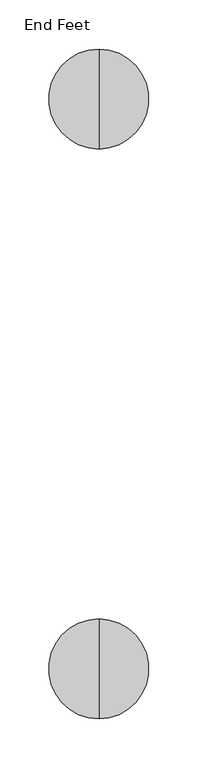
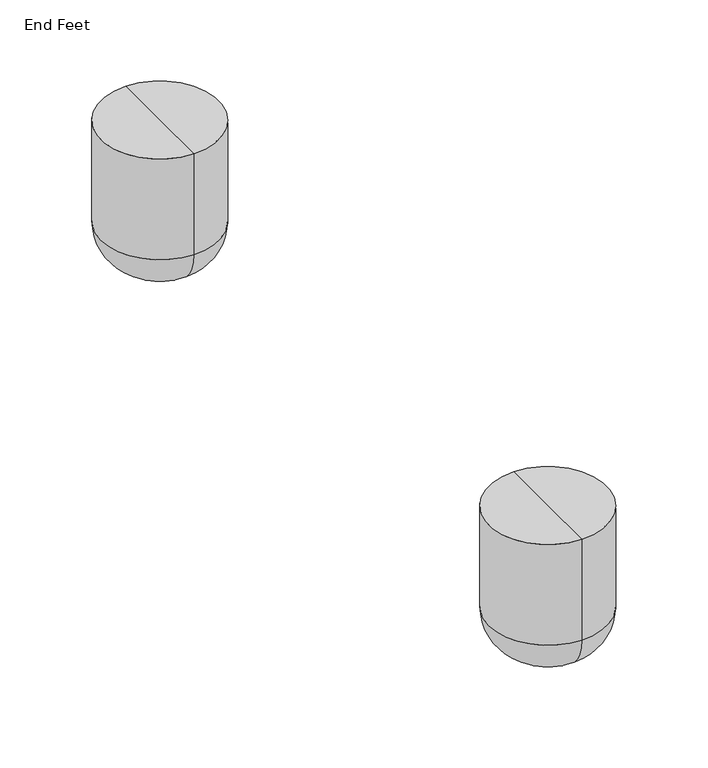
"""IFC4 building model written with IfcOpenShell, lengths in millimetres: furniture geometry, Coalesse_AM_Ensemble_Seat_EndOption : End Feet."""

import ifcopenshell
import ifcopenshell.guid

model = None  # the IFC model being written
_history = None  # IfcOwnerHistory: only IFC2X3 demands one
_inside = {}  # id of a spatial element -> (the spatial element, [elements in it])
_under = {}  # id of a project, library or spatial element -> (it, [spatial elements below it])
_declared = {}  # id of a project -> (the project, [libraries it declares])
_typed = {}  # id of a type object -> (the type object, [elements of that type])
_made_of = {}  # id of a material, layer set ... -> (it, [elements and type objects made of it])


def new_model(schema):
    """Start an empty IFC model of exactly this schema.

    Asked for "IFC4X3", IfcOpenShell would pick the latest addendum, in which some entities
    have other attributes; the version numbers below select the first issue.
    IFC2X3 requires an IfcOwnerHistory on every rooted entity: one is made here for all.
    """
    global model, _history
    if schema == "IFC4X3":
        model = ifcopenshell.file(schema_version=(4, 3, 0, 0))
    else:
        model = ifcopenshell.file(schema=schema)
    _inside.clear()
    _under.clear()
    _declared.clear()
    _typed.clear()
    _made_of.clear()
    _history = None
    if model.schema == "IFC2X3":
        org = make("IfcOrganization", Name="unknown")
        user = make(
            "IfcPersonAndOrganization",
            ThePerson=make("IfcPerson", FamilyName="unknown"),
            TheOrganization=org,
        )
        app = make(
            "IfcApplication",
            ApplicationDeveloper=org,
            Version="unknown",
            ApplicationFullName="unknown",
            ApplicationIdentifier="unknown",
        )
        _history = make(
            "IfcOwnerHistory",
            OwningUser=user,
            OwningApplication=app,
            ChangeAction="ADDED",
            CreationDate=0,
        )
    return model


def make(cls, **values):
    """One entity of the class cls with the attributes given. An attribute that is None is left unset."""
    return model.create_entity(
        cls, **{name: value for name, value in values.items() if value is not None}
    )


def rooted(cls, **values):
    """An entity with a GlobalId (a new one), such as an element, a storey or a relation."""
    return make(cls, GlobalId=ifcopenshell.guid.new(), OwnerHistory=_history, **values)


def si_unit(unit_type, name, prefix=None):
    """IfcSIUnit, for example si_unit("LENGTHUNIT", "METRE", prefix="MILLI")."""
    return make("IfcSIUnit", UnitType=unit_type, Prefix=prefix, Name=name)


def assignment(units):
    """IfcUnitAssignment: the units of a project."""
    return None if units is None else make("IfcUnitAssignment", Units=units)


def point(xyz):
    """IfcCartesianPoint."""
    return None if xyz is None else make("IfcCartesianPoint", Coordinates=xyz)


def direction(xyz):
    """IfcDirection."""
    return None if xyz is None else make("IfcDirection", DirectionRatios=xyz)


def frame(location, z_axis=None, x_axis=None):
    """IfcAxis2Placement3D, a coordinate frame: its origin and axes. An axis left out is left unset."""
    return make(
        "IfcAxis2Placement3D",
        Location=point(location),
        Axis=direction(z_axis),
        RefDirection=direction(x_axis),
    )


def origin():
    """The frame at (0, 0, 0) with its axes left unset."""
    return frame((0.0, 0.0, 0.0))


def place(relative_to, where):
    """IfcLocalPlacement: puts the frame where relative to a parent placement (None: the world)."""
    return make(
        "IfcLocalPlacement", PlacementRelTo=relative_to, RelativePlacement=where
    )


def context(
    kind, dimensions, precision=None, world=None, true_north=None, identifier=None
):
    """IfcGeometricRepresentationContext, for example the 3D "Model" context."""
    return make(
        "IfcGeometricRepresentationContext",
        ContextIdentifier=identifier,
        ContextType=kind,
        CoordinateSpaceDimension=dimensions,
        Precision=precision,
        WorldCoordinateSystem=world,
        TrueNorth=true_north,
    )


def project(units=None, contexts=None):
    """IfcProject with its units and contexts."""
    return rooted(
        "IfcProject",
        Name="project",
        RepresentationContexts=contexts,
        UnitsInContext=assignment(units),
    )


def spatial(cls, under=None, at=None, **own):
    """A site, building, storey or space (cls), placed at a placement, below another one or the project."""
    s = rooted(cls, ObjectPlacement=at, **own)
    if under is not None:
        _under.setdefault(under.id(), (under, []))[1].append(s)
    return s


def circle_curve(where, radius):
    """IfcCircle in the frame where."""
    return make("IfcCircle", Position=where, Radius=radius)


def ellipse_curve(where, semi_axis1, semi_axis2):
    """IfcEllipse in the frame where."""
    return make(
        "IfcEllipse", Position=where, SemiAxis1=semi_axis1, SemiAxis2=semi_axis2
    )


def trimmed(basis, trim1, trim2, sense, master):
    """IfcTrimmedCurve: the piece of a basis curve between two trims."""
    return make(
        "IfcTrimmedCurve",
        BasisCurve=basis,
        Trim1=trim1,
        Trim2=trim2,
        SenseAgreement=sense,
        MasterRepresentation=master,
    )


def shape(context_of_items, identifier, shape_type, items):
    """IfcShapeRepresentation: the items that make up one representation, for example the "Body"."""
    return make(
        "IfcShapeRepresentation",
        ContextOfItems=context_of_items,
        RepresentationIdentifier=identifier,
        RepresentationType=shape_type,
        Items=items,
    )


def source(mapping_origin, context_of_items, identifier, shape_type, items):
    """IfcRepresentationMap: a shape defined once, which mapped items show again and again."""
    return make(
        "IfcRepresentationMap",
        MappingOrigin=mapping_origin,
        MappedRepresentation=shape(context_of_items, identifier, shape_type, items),
    )


def transform(
    local_origin,
    x_axis=None,
    y_axis=None,
    z_axis=None,
    scale=None,
    scale2=None,
    scale3=None,
    uniform=True,
):
    """IfcCartesianTransformationOperator3D, or its non-uniform kind. x_axis, y_axis, z_axis: its Axis1, 2, 3."""
    if uniform:
        return make(
            "IfcCartesianTransformationOperator3D",
            Axis1=direction(x_axis),
            Axis2=direction(y_axis),
            LocalOrigin=point(local_origin),
            Scale=scale,
            Axis3=direction(z_axis),
        )
    return make(
        "IfcCartesianTransformationOperator3DnonUniform",
        Axis1=direction(x_axis),
        Axis2=direction(y_axis),
        LocalOrigin=point(local_origin),
        Scale=scale,
        Axis3=direction(z_axis),
        Scale2=scale2,
        Scale3=scale3,
    )


def mapped(mapping_source, mapping_target):
    """IfcMappedItem: shows the shape of a source again, moved by a transform."""
    return make(
        "IfcMappedItem", MappingSource=mapping_source, MappingTarget=mapping_target
    )


def made_of(thing, what):
    """Note that an element or type object is made of a material, layer set ...; save() writes the relation."""
    if what is not None:
        _made_of.setdefault(what.id(), (what, []))[1].append(thing)
    return thing


def element(
    cls,
    number,
    at=None,
    inside=None,
    cuts=None,
    type_object=None,
    material=None,
    context=None,
    identifier="Body",
    shape_type=None,
    held_by="IfcProductDefinitionShape",
    body=None,
    shapes=None,
    **own,
):
    """One element of the class cls, such as IfcWall. Its Tag is "e" and its number.

    at: its placement. inside: the storey or other place that contains it. cuts: it is an
    opening in that element (IfcRelVoidsElement). A single representation is given by context,
    identifier, shape_type and body (its items); several are given by shapes. held_by: the class
    of the entity that holds the representations. save() writes the other relations.
    """
    e = rooted(cls, Tag="e%d" % number, ObjectPlacement=at, **own)
    if body is not None:
        shapes = [shape(context, identifier, shape_type, body)]
    if shapes is not None:
        e.Representation = make(held_by, Representations=shapes)
    if inside is not None:
        _inside.setdefault(inside.id(), (inside, []))[1].append(e)
    if cuts is not None:
        rooted(
            "IfcRelVoidsElement", RelatingBuildingElement=cuts, RelatedOpeningElement=e
        )
    if type_object is not None:
        _typed.setdefault(type_object.id(), (type_object, []))[1].append(e)
    return made_of(e, material)


def aggregate(whole, parts):
    """IfcRelAggregates: a whole, such as a stair, and the parts it consists of."""
    return rooted("IfcRelAggregates", RelatingObject=whole, RelatedObjects=parts)


def save(model, path):
    """Write the relations noted so far, then the file.

    IfcRelAggregates (storeys below a building ...), IfcRelContainedInSpatialStructure (elements
    in a storey), IfcRelDefinesByType, IfcRelAssociatesMaterial and IfcRelDeclares: one each for
    every whole, place, type object, material and project.
    """
    for whole, parts in _under.values():
        aggregate(whole, parts)
    for where, things in _inside.values():
        rooted(
            "IfcRelContainedInSpatialStructure",
            RelatedElements=things,
            RelatingStructure=where,
        )
    for kind, things in _typed.values():
        rooted("IfcRelDefinesByType", RelatedObjects=things, RelatingType=kind)
    for what, things in _made_of.values():
        rooted("IfcRelAssociatesMaterial", RelatedObjects=things, RelatingMaterial=what)
    for by, libraries in _declared.values():
        rooted("IfcRelDeclares", RelatingContext=by, RelatedDefinitions=libraries)
    model.write(path)


def plane_surface(at):
    """IfcPlane: the flat surface through the origin of the frame at, square to its z axis."""
    return make("IfcPlane", Position=at)


def cylinder_surface(at, radius):
    """IfcCylindricalSurface: all points at the distance radius from the z axis of the frame at."""
    return make("IfcCylindricalSurface", Position=at, Radius=radius)


def revolved_surface(curve, axis_point, axis_direction):
    """IfcSurfaceOfRevolution: the curve turned about the line through axis_point along axis_direction."""
    return make(
        "IfcSurfaceOfRevolution",
        SweptCurve=make("IfcArbitraryOpenProfileDef", ProfileType="CURVE", Curve=curve),
        AxisPosition=make("IfcAxis1Placement", Location=point(axis_point), Axis=direction(axis_direction)),
    )


def advanced_brep(points, edges, surfaces, faces):
    """IfcAdvancedBrep: a solid bounded by faces that lie on surfaces and meet in shared edges.

    An edge is (start, end): straight between two places in points (the first is 0);
    or (start, end, curve); or (start, end, curve, False) where it runs against its curve.
    A face is (place in surfaces, loops), or (place, loops, False) where it looks against
    its surface's normal. A loop lists edges by number (the first is 1), with a minus sign
    where the edge is run from its end to its start. The first loop is the outer one.
    """
    corners = [point(p) for p in points]
    vertices = [make("IfcVertexPoint", VertexGeometry=c) for c in corners]
    made = []
    for start, end, *more in edges:
        made.append(
            make(
                "IfcEdgeCurve",
                EdgeStart=vertices[start],
                EdgeEnd=vertices[end],
                EdgeGeometry=more[0] if more else make("IfcPolyline", Points=[corners[start], corners[end]]),
                SameSense=more[1] if len(more) > 1 else True,
            )
        )
    hull = []
    for where, loops, *sense in faces:
        bounds = []
        for j, loop in enumerate(loops):
            ring = [make("IfcOrientedEdge", EdgeElement=made[abs(k) - 1], Orientation=k > 0) for k in loop]
            bounds.append(
                make(
                    "IfcFaceOuterBound" if j == 0 else "IfcFaceBound",
                    Bound=make("IfcEdgeLoop", EdgeList=ring),
                    Orientation=True,
                )
            )
        hull.append(make("IfcAdvancedFace", Bounds=bounds, FaceSurface=surfaces[where], SameSense=sense[0] if sense else True))
    return make("IfcAdvancedBrep", Outer=make("IfcClosedShell", CfsFaces=hull))


def end_feet_c620475a(model_context):
    return source(origin(), model_context, "Body", "AdvancedBrep", [
        advanced_brep(
        [(135.289512, 747.4877706, 130.0907271), (135.289512, 645.5490367, 130.0907271), (135.289512, 696.5184037, 130.0907271), (135.289512, 747.4877706, 38.1), (135.289512, 645.5490367, 38.1), (135.289512, 709.3877706, 0.0), (135.289512, 683.6490367, 0.0), (135.289512, 696.5184037, 0.0)],
        [
            (0, 1, circle_curve(frame((135.289512, 696.5184037, 130.0907271), z_axis=(0.0, 0.0, 1.0), x_axis=(0.0, -1.0, 0.0)), 50.969367)),
            (1, 2),
            (2, 0),
            (1, 0, circle_curve(frame((135.289512, 696.5184037, 130.0907271), z_axis=(0.0, 0.0, 1.0), x_axis=(0.0, -1.0, 0.0)), 50.969367)),
            (3, 4, circle_curve(frame((135.289512, 696.5184037, 38.1), z_axis=(0.0, 0.0, 1.0), x_axis=(0.0, -1.0, 0.0)), 50.969367)),
            (4, 1),
            (0, 3),
            (4, 3, circle_curve(frame((135.289512, 696.5184037, 38.1), z_axis=(0.0, 0.0, 1.0), x_axis=(0.0, -1.0, 0.0)), 50.969367)),
            (5, 6, circle_curve(frame((135.289512, 696.5184037, 0.0), z_axis=(0.0, 0.0, 1.0), x_axis=(0.0, -1.0, 0.0)), 12.869367)),
            (6, 4, circle_curve(frame((135.289512, 683.6490367, 38.1), z_axis=(-1.0, 0.0, 0.0), x_axis=(0.0, -1.0, 0.0)), 38.1)),
            (3, 5, circle_curve(frame((135.289512, 709.3877706, 38.1), z_axis=(-1.0, 0.0, 0.0), x_axis=(0.0, 1.0, 0.0)), 38.1)),
            (6, 5, circle_curve(frame((135.289512, 696.5184037, 0.0), z_axis=(0.0, 0.0, 1.0), x_axis=(0.0, -1.0, 0.0)), 12.869367)),
            (7, 6),
            (5, 7),
        ],
        [
            plane_surface(frame((135.289512, 696.5184037, 130.0907271), z_axis=(0.0, 0.0, 1.0), x_axis=(0.0, -1.0, 0.0))),
            cylinder_surface(frame((135.289512, 696.5184037, 130.0907271), z_axis=(0.0, 0.0, -1.0), x_axis=(0.0, -1.0, 0.0)), 50.969367),
            revolved_surface(trimmed(ellipse_curve(frame((135.289512, 683.6490367, 38.1), z_axis=(1.0, 0.0, 0.0), x_axis=(0.0, -1.0, 0.0)), 38.1, 38.1), [point((135.289512, 645.5490367, 38.1))], [point((135.289512, 683.6490367, 0.0))], True, "CARTESIAN"), (135.289512, 696.5184037, 130.0907271), (0.0, 0.0, -1.0)),
            plane_surface(frame((135.289512, 696.5184037, 0.0), z_axis=(0.0, 0.0, -1.0), x_axis=(0.0, -1.0, 0.0))),
        ],
        [
            (0, [[1, 2, 3]]),
            (0, [[4, -3, -2]]),
            (1, [[5, 6, -1, 7]]),
            (1, [[8, -7, -4, -6]]),
            (2, [[9, 10, -5, 11]]),
            (2, [[12, -11, -8, -10]]),
            (3, [[13, -9, 14]]),
            (3, [[-14, -12, -13]]),
        ],
    ),
        advanced_brep(
        [(135.289512, 166.4627706, 130.0907271), (135.289512, 64.5240367, 130.0907271), (135.289512, 115.4934037, 130.0907271), (135.289512, 166.4627706, 38.1), (135.289512, 64.5240367, 38.1), (135.289512, 128.3627706, 0.0), (135.289512, 102.6240367, 0.0), (135.289512, 115.4934037, 0.0)],
        [
            (0, 1, circle_curve(frame((135.289512, 115.4934037, 130.0907271), z_axis=(0.0, 0.0, 1.0), x_axis=(0.0, -1.0, 0.0)), 50.969367)),
            (1, 2),
            (2, 0),
            (1, 0, circle_curve(frame((135.289512, 115.4934037, 130.0907271), z_axis=(0.0, 0.0, 1.0), x_axis=(0.0, -1.0, 0.0)), 50.969367)),
            (3, 4, circle_curve(frame((135.289512, 115.4934037, 38.1), z_axis=(0.0, 0.0, 1.0), x_axis=(0.0, -1.0, 0.0)), 50.969367)),
            (4, 1),
            (0, 3),
            (4, 3, circle_curve(frame((135.289512, 115.4934037, 38.1), z_axis=(0.0, 0.0, 1.0), x_axis=(0.0, -1.0, 0.0)), 50.969367)),
            (5, 6, circle_curve(frame((135.289512, 115.4934037, 0.0), z_axis=(0.0, 0.0, 1.0), x_axis=(0.0, -1.0, 0.0)), 12.869367)),
            (6, 4, circle_curve(frame((135.289512, 102.6240367, 38.1), z_axis=(-1.0, 0.0, 0.0), x_axis=(0.0, -1.0, 0.0)), 38.1)),
            (3, 5, circle_curve(frame((135.289512, 128.3627706, 38.1), z_axis=(-1.0, 0.0, 0.0), x_axis=(0.0, 1.0, 0.0)), 38.1)),
            (6, 5, circle_curve(frame((135.289512, 115.4934037, 0.0), z_axis=(0.0, 0.0, 1.0), x_axis=(0.0, -1.0, 0.0)), 12.869367)),
            (7, 6),
            (5, 7),
        ],
        [
            plane_surface(frame((135.289512, 115.4934037, 130.0907271), z_axis=(0.0, 0.0, 1.0), x_axis=(0.0, -1.0, 0.0))),
            cylinder_surface(frame((135.289512, 115.4934037, 130.0907271), z_axis=(0.0, 0.0, -1.0), x_axis=(0.0, -1.0, 0.0)), 50.969367),
            revolved_surface(trimmed(ellipse_curve(frame((135.289512, 102.6240367, 38.1), z_axis=(1.0, 0.0, 0.0), x_axis=(0.0, -1.0, 0.0)), 38.1, 38.1), [point((135.289512, 64.5240367, 38.1))], [point((135.289512, 102.6240367, 0.0))], True, "CARTESIAN"), (135.289512, 115.4934037, 130.0907271), (0.0, 0.0, -1.0)),
            plane_surface(frame((135.289512, 115.4934037, 0.0), z_axis=(0.0, 0.0, -1.0), x_axis=(0.0, -1.0, 0.0))),
        ],
        [
            (0, [[1, 2, 3]]),
            (0, [[4, -3, -2]]),
            (1, [[5, 6, -1, 7]]),
            (1, [[8, -7, -4, -6]]),
            (2, [[9, 10, -5, 11]]),
            (2, [[12, -11, -8, -10]]),
            (3, [[13, -9, 14]]),
            (3, [[-14, -12, -13]]),
        ],
    ),
    ])


if __name__ == "__main__":
    model = new_model("IFC4")
    model_context = context("Model", 3, world=origin())
    ifc_project = project(units=[si_unit("LENGTHUNIT", "METRE", prefix="MILLI")], contexts=[model_context])
    site = spatial("IfcSite", under=ifc_project)
    building = spatial("IfcBuilding", under=site)
    placement = place(None, origin())
    end_feet_shape = end_feet_c620475a(model_context)
    element("IfcFurniture", 1, ObjectType="Coalesse_AM_Ensemble_Seat_EndOption : End Feet", at=placement, inside=building, context=model_context, shape_type="MappedRepresentation", body=[
        mapped(end_feet_shape, transform((0.0, 0.0, 0.0), x_axis=(1.0, 0.0, 0.0), y_axis=(0.0, 1.0, 0.0), z_axis=(0.0, 0.0, 1.0))),
    ])
    save(model, "model.ifc")
